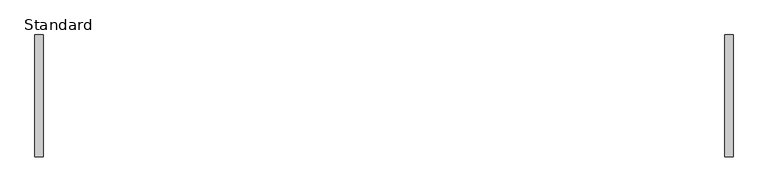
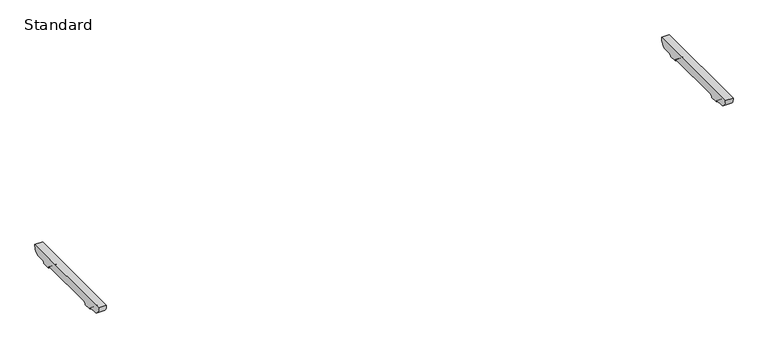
"""IFC4 building model written with IfcOpenShell, lengths in millimetres: furniture geometry, BDG_BossDesign_Tbls_AgentTables4Legs_Nested : Standard."""

import ifcopenshell
import ifcopenshell.guid

model = None  # the IFC model being written
_history = None  # IfcOwnerHistory: only IFC2X3 demands one
_inside = {}  # id of a spatial element -> (the spatial element, [elements in it])
_under = {}  # id of a project, library or spatial element -> (it, [spatial elements below it])
_declared = {}  # id of a project -> (the project, [libraries it declares])
_typed = {}  # id of a type object -> (the type object, [elements of that type])
_made_of = {}  # id of a material, layer set ... -> (it, [elements and type objects made of it])


def new_model(schema):
    """Start an empty IFC model of exactly this schema.

    Asked for "IFC4X3", IfcOpenShell would pick the latest addendum, in which some entities
    have other attributes; the version numbers below select the first issue.
    IFC2X3 requires an IfcOwnerHistory on every rooted entity: one is made here for all.
    """
    global model, _history
    if schema == "IFC4X3":
        model = ifcopenshell.file(schema_version=(4, 3, 0, 0))
    else:
        model = ifcopenshell.file(schema=schema)
    _inside.clear()
    _under.clear()
    _declared.clear()
    _typed.clear()
    _made_of.clear()
    _history = None
    if model.schema == "IFC2X3":
        org = make("IfcOrganization", Name="unknown")
        user = make(
            "IfcPersonAndOrganization",
            ThePerson=make("IfcPerson", FamilyName="unknown"),
            TheOrganization=org,
        )
        app = make(
            "IfcApplication",
            ApplicationDeveloper=org,
            Version="unknown",
            ApplicationFullName="unknown",
            ApplicationIdentifier="unknown",
        )
        _history = make(
            "IfcOwnerHistory",
            OwningUser=user,
            OwningApplication=app,
            ChangeAction="ADDED",
            CreationDate=0,
        )
    return model


def make(cls, **values):
    """One entity of the class cls with the attributes given. An attribute that is None is left unset."""
    return model.create_entity(
        cls, **{name: value for name, value in values.items() if value is not None}
    )


def rooted(cls, **values):
    """An entity with a GlobalId (a new one), such as an element, a storey or a relation."""
    return make(cls, GlobalId=ifcopenshell.guid.new(), OwnerHistory=_history, **values)


def si_unit(unit_type, name, prefix=None):
    """IfcSIUnit, for example si_unit("LENGTHUNIT", "METRE", prefix="MILLI")."""
    return make("IfcSIUnit", UnitType=unit_type, Prefix=prefix, Name=name)


def assignment(units):
    """IfcUnitAssignment: the units of a project."""
    return None if units is None else make("IfcUnitAssignment", Units=units)


def point(xyz):
    """IfcCartesianPoint."""
    return None if xyz is None else make("IfcCartesianPoint", Coordinates=xyz)


def direction(xyz):
    """IfcDirection."""
    return None if xyz is None else make("IfcDirection", DirectionRatios=xyz)


def frame(location, z_axis=None, x_axis=None):
    """IfcAxis2Placement3D, a coordinate frame: its origin and axes. An axis left out is left unset."""
    return make(
        "IfcAxis2Placement3D",
        Location=point(location),
        Axis=direction(z_axis),
        RefDirection=direction(x_axis),
    )


def frame_2d(location, x_axis=None):
    """IfcAxis2Placement2D, a coordinate frame in the plane: its origin and x axis."""
    return make(
        "IfcAxis2Placement2D", Location=point(location), RefDirection=direction(x_axis)
    )


def origin():
    """The frame at (0, 0, 0) with its axes left unset."""
    return frame((0.0, 0.0, 0.0))


def place(relative_to, where):
    """IfcLocalPlacement: puts the frame where relative to a parent placement (None: the world)."""
    return make(
        "IfcLocalPlacement", PlacementRelTo=relative_to, RelativePlacement=where
    )


def context(
    kind, dimensions, precision=None, world=None, true_north=None, identifier=None
):
    """IfcGeometricRepresentationContext, for example the 3D "Model" context."""
    return make(
        "IfcGeometricRepresentationContext",
        ContextIdentifier=identifier,
        ContextType=kind,
        CoordinateSpaceDimension=dimensions,
        Precision=precision,
        WorldCoordinateSystem=world,
        TrueNorth=true_north,
    )


def project(units=None, contexts=None):
    """IfcProject with its units and contexts."""
    return rooted(
        "IfcProject",
        Name="project",
        RepresentationContexts=contexts,
        UnitsInContext=assignment(units),
    )


def spatial(cls, under=None, at=None, **own):
    """A site, building, storey or space (cls), placed at a placement, below another one or the project."""
    s = rooted(cls, ObjectPlacement=at, **own)
    if under is not None:
        _under.setdefault(under.id(), (under, []))[1].append(s)
    return s


def polyline(points):
    """IfcPolyline through the points."""
    return make("IfcPolyline", Points=[point(p) for p in points])


def circle_curve(where, radius):
    """IfcCircle in the frame where."""
    return make("IfcCircle", Position=where, Radius=radius)


def trimmed(basis, trim1, trim2, sense, master):
    """IfcTrimmedCurve: the piece of a basis curve between two trims."""
    return make(
        "IfcTrimmedCurve",
        BasisCurve=basis,
        Trim1=trim1,
        Trim2=trim2,
        SenseAgreement=sense,
        MasterRepresentation=master,
    )


def segment(curve, same_sense, transition):
    """IfcCompositeCurveSegment."""
    return make(
        "IfcCompositeCurveSegment",
        Transition=transition,
        SameSense=same_sense,
        ParentCurve=curve,
    )


def composite_curve(segments, self_intersect=None):
    """IfcCompositeCurve: segments joined end to end."""
    return make("IfcCompositeCurve", Segments=segments, SelfIntersect=self_intersect)


def outline(outer, holes=None, kind="AREA"):
    """IfcArbitraryClosedProfileDef: a profile drawn as a closed curve; with holes, ...WithVoids."""
    if holes is None:
        return make("IfcArbitraryClosedProfileDef", ProfileType=kind, OuterCurve=outer)
    return make(
        "IfcArbitraryProfileDefWithVoids",
        ProfileType=kind,
        OuterCurve=outer,
        InnerCurves=holes,
    )


def extrude(swept, where, along, depth):
    """IfcExtrudedAreaSolid: the profile swept, set in the frame where, extruded along a direction by depth."""
    return make(
        "IfcExtrudedAreaSolid",
        SweptArea=swept,
        Position=where,
        ExtrudedDirection=direction(along),
        Depth=depth,
    )


def shape(context_of_items, identifier, shape_type, items):
    """IfcShapeRepresentation: the items that make up one representation, for example the "Body"."""
    return make(
        "IfcShapeRepresentation",
        ContextOfItems=context_of_items,
        RepresentationIdentifier=identifier,
        RepresentationType=shape_type,
        Items=items,
    )


def source(mapping_origin, context_of_items, identifier, shape_type, items):
    """IfcRepresentationMap: a shape defined once, which mapped items show again and again."""
    return make(
        "IfcRepresentationMap",
        MappingOrigin=mapping_origin,
        MappedRepresentation=shape(context_of_items, identifier, shape_type, items),
    )


def transform(
    local_origin,
    x_axis=None,
    y_axis=None,
    z_axis=None,
    scale=None,
    scale2=None,
    scale3=None,
    uniform=True,
):
    """IfcCartesianTransformationOperator3D, or its non-uniform kind. x_axis, y_axis, z_axis: its Axis1, 2, 3."""
    if uniform:
        return make(
            "IfcCartesianTransformationOperator3D",
            Axis1=direction(x_axis),
            Axis2=direction(y_axis),
            LocalOrigin=point(local_origin),
            Scale=scale,
            Axis3=direction(z_axis),
        )
    return make(
        "IfcCartesianTransformationOperator3DnonUniform",
        Axis1=direction(x_axis),
        Axis2=direction(y_axis),
        LocalOrigin=point(local_origin),
        Scale=scale,
        Axis3=direction(z_axis),
        Scale2=scale2,
        Scale3=scale3,
    )


def mapped(mapping_source, mapping_target):
    """IfcMappedItem: shows the shape of a source again, moved by a transform."""
    return make(
        "IfcMappedItem", MappingSource=mapping_source, MappingTarget=mapping_target
    )


def made_of(thing, what):
    """Note that an element or type object is made of a material, layer set ...; save() writes the relation."""
    if what is not None:
        _made_of.setdefault(what.id(), (what, []))[1].append(thing)
    return thing


def element(
    cls,
    number,
    at=None,
    inside=None,
    cuts=None,
    type_object=None,
    material=None,
    context=None,
    identifier="Body",
    shape_type=None,
    held_by="IfcProductDefinitionShape",
    body=None,
    shapes=None,
    **own,
):
    """One element of the class cls, such as IfcWall. Its Tag is "e" and its number.

    at: its placement. inside: the storey or other place that contains it. cuts: it is an
    opening in that element (IfcRelVoidsElement). A single representation is given by context,
    identifier, shape_type and body (its items); several are given by shapes. held_by: the class
    of the entity that holds the representations. save() writes the other relations.
    """
    e = rooted(cls, Tag="e%d" % number, ObjectPlacement=at, **own)
    if body is not None:
        shapes = [shape(context, identifier, shape_type, body)]
    if shapes is not None:
        e.Representation = make(held_by, Representations=shapes)
    if inside is not None:
        _inside.setdefault(inside.id(), (inside, []))[1].append(e)
    if cuts is not None:
        rooted(
            "IfcRelVoidsElement", RelatingBuildingElement=cuts, RelatedOpeningElement=e
        )
    if type_object is not None:
        _typed.setdefault(type_object.id(), (type_object, []))[1].append(e)
    return made_of(e, material)


def aggregate(whole, parts):
    """IfcRelAggregates: a whole, such as a stair, and the parts it consists of."""
    return rooted("IfcRelAggregates", RelatingObject=whole, RelatedObjects=parts)


def save(model, path):
    """Write the relations noted so far, then the file.

    IfcRelAggregates (storeys below a building ...), IfcRelContainedInSpatialStructure (elements
    in a storey), IfcRelDefinesByType, IfcRelAssociatesMaterial and IfcRelDeclares: one each for
    every whole, place, type object, material and project.
    """
    for whole, parts in _under.values():
        aggregate(whole, parts)
    for where, things in _inside.values():
        rooted(
            "IfcRelContainedInSpatialStructure",
            RelatedElements=things,
            RelatingStructure=where,
        )
    for kind, things in _typed.values():
        rooted("IfcRelDefinesByType", RelatedObjects=things, RelatingType=kind)
    for what, things in _made_of.values():
        rooted("IfcRelAssociatesMaterial", RelatedObjects=things, RelatingMaterial=what)
    for by, libraries in _declared.values():
        rooted("IfcRelDeclares", RelatingContext=by, RelatedDefinitions=libraries)
    model.write(path)


def standard_f1ad80d6(model_context):
    return source(origin(), model_context, "Body", "SweptSolid", [
        extrude(outline(composite_curve([segment(polyline([(280.5450184, 672.0), (242.7000122, 672.0)]), True, "CONTINUOUS"), segment(trimmed(circle_curve(frame_2d((242.7000122, 660.0)), 12.0), [point((242.7000122, 672.0))], [point((230.7000122, 660.0))], True, "CARTESIAN"), True, "CONTINUOUS"), segment(polyline([(230.7000122, 660.0), (185.7000122, 660.0)]), True, "CONTINUOUS"), segment(trimmed(circle_curve(frame_2d((173.7000122, 660.0)), 12.0), [point((185.7000122, 660.0))], [point((173.7000122, 672.0))], True, "CARTESIAN"), True, "CONTINUOUS"), segment(polyline([(173.7000122, 672.0), (-173.7000122, 672.0)]), True, "CONTINUOUS"), segment(trimmed(circle_curve(frame_2d((-173.7000122, 660.0)), 12.0), [point((-173.7000122, 672.0))], [point((-185.7000122, 660.0))], True, "CARTESIAN"), True, "CONTINUOUS"), segment(polyline([(-185.7000122, 660.0), (-230.7000122, 660.0)]), True, "CONTINUOUS"), segment(trimmed(circle_curve(frame_2d((-242.7000122, 660.0)), 12.0), [point((-230.7000122, 660.0))], [point((-242.7000122, 672.0))], True, "CARTESIAN"), True, "CONTINUOUS"), segment(polyline([(-242.7000122, 672.0), (-280.5450184, 672.0)]), True, "CONTINUOUS"), segment(trimmed(circle_curve(frame_2d((-278.2220439, 716.5514119)), 44.6119324), [point((-280.5450184, 672.0))], [point((-322.5, 722.0))], False, "CARTESIAN"), True, "CONTINUOUS"), segment(polyline([(-322.5, 722.0), (322.5, 722.0)]), True, "CONTINUOUS"), segment(trimmed(circle_curve(frame_2d((278.2220439, 716.5514119)), 44.6119324), [point((322.5, 722.0))], [point((280.5450184, 672.0))], False, "CARTESIAN"), True, "CONTINUOUS")], self_intersect=False)), frame((1805.0, 0.0, 0.0), z_axis=(1.0, 0.0, 0.0), x_axis=(0.0, 1.0, 0.0)), (0.0, 0.0, 1.0), 45.0),
        extrude(outline(composite_curve([segment(polyline([(280.5450184, 672.0), (242.7000122, 672.0)]), True, "CONTINUOUS"), segment(trimmed(circle_curve(frame_2d((242.7000122, 660.0)), 12.0), [point((242.7000122, 672.0))], [point((230.7000122, 660.0))], True, "CARTESIAN"), True, "CONTINUOUS"), segment(polyline([(230.7000122, 660.0), (185.7000122, 660.0)]), True, "CONTINUOUS"), segment(trimmed(circle_curve(frame_2d((173.7000122, 660.0)), 12.0), [point((185.7000122, 660.0))], [point((173.7000122, 672.0))], True, "CARTESIAN"), True, "CONTINUOUS"), segment(polyline([(173.7000122, 672.0), (-173.7000122, 672.0)]), True, "CONTINUOUS"), segment(trimmed(circle_curve(frame_2d((-173.7000122, 660.0)), 12.0), [point((-173.7000122, 672.0))], [point((-185.7000122, 660.0))], True, "CARTESIAN"), True, "CONTINUOUS"), segment(polyline([(-185.7000122, 660.0), (-230.7000122, 660.0)]), True, "CONTINUOUS"), segment(trimmed(circle_curve(frame_2d((-242.7000122, 660.0)), 12.0), [point((-230.7000122, 660.0))], [point((-242.7000122, 672.0))], True, "CARTESIAN"), True, "CONTINUOUS"), segment(polyline([(-242.7000122, 672.0), (-280.5450184, 672.0)]), True, "CONTINUOUS"), segment(trimmed(circle_curve(frame_2d((-278.2220439, 716.5514119)), 44.6119324), [point((-280.5450184, 672.0))], [point((-322.5, 722.0))], False, "CARTESIAN"), True, "CONTINUOUS"), segment(polyline([(-322.5, 722.0), (322.5, 722.0)]), True, "CONTINUOUS"), segment(trimmed(circle_curve(frame_2d((278.2220439, 716.5514119)), 44.6119324), [point((322.5, 722.0))], [point((280.5450184, 672.0))], False, "CARTESIAN"), True, "CONTINUOUS")], self_intersect=False)), frame((-1850.0, 0.0, 0.0), z_axis=(1.0, 0.0, 0.0), x_axis=(0.0, 1.0, 0.0)), (0.0, 0.0, 1.0), 45.0),
    ])


if __name__ == "__main__":
    model = new_model("IFC4")
    model_context = context("Model", 3, world=origin())
    ifc_project = project(units=[si_unit("LENGTHUNIT", "METRE", prefix="MILLI")], contexts=[model_context])
    site = spatial("IfcSite", under=ifc_project)
    building = spatial("IfcBuilding", under=site)
    placement = place(None, origin())
    standard_shape = standard_f1ad80d6(model_context)
    element("IfcFurniture", 1, ObjectType="BDG_BossDesign_Tbls_AgentTables4Legs_Nested : Standard", at=placement, inside=building, context=model_context, shape_type="MappedRepresentation", body=[
        mapped(standard_shape, transform((0.0, 0.0, 0.0), x_axis=(1.0, 0.0, 0.0), y_axis=(0.0, 1.0, 0.0), z_axis=(0.0, 0.0, 1.0))),
    ])
    save(model, "model.ifc")
